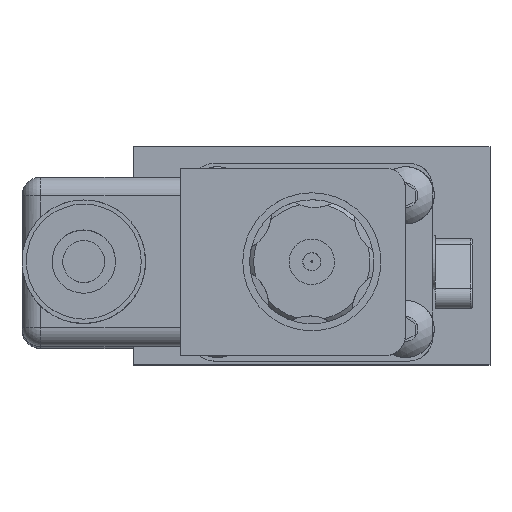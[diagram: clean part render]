
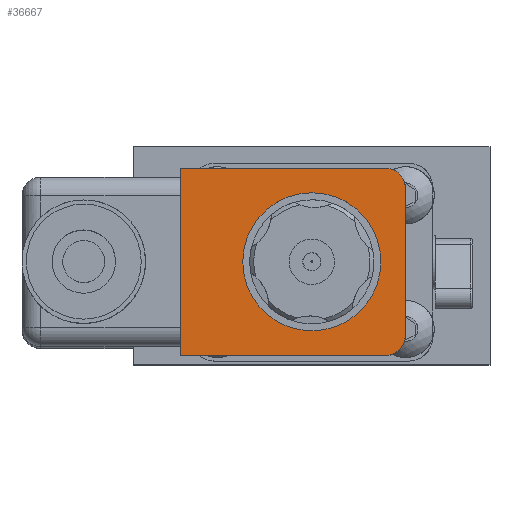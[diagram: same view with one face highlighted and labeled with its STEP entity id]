
A CAD part, top view. The second image highlights one B-rep face of the part: STEP entity #36667.
In plain terms, the highlighted planar face has unit normal (0, 0, 1).
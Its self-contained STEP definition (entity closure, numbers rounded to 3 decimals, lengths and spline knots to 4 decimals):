
#1431=FACE_BOUND('',#6511,.T.);
#2285=PLANE('',#40267);
#4211=FACE_OUTER_BOUND('',#6510,.T.);
#6510=EDGE_LOOP('',(#31179,#31180,#31181,#31182,#31183,#31184));
#6511=EDGE_LOOP('',(#31185));
#9194=LINE('',#67170,#11759);
#9201=LINE('',#67195,#11766);
#9202=LINE('',#67198,#11767);
#9203=LINE('',#67199,#11768);
#11759=VECTOR('',#49758,1.);
#11766=VECTOR('',#49777,1.);
#11767=VECTOR('',#49780,1.);
#11768=VECTOR('',#49781,1.);
#13526=CIRCLE('',#40268,0.3175);
#13527=CIRCLE('',#40269,0.3175);
#13528=CIRCLE('',#40270,1.1075);
#16722=VERTEX_POINT('',#67166);
#16724=VERTEX_POINT('',#67169);
#16734=VERTEX_POINT('',#67191);
#16735=VERTEX_POINT('',#67192);
#16736=VERTEX_POINT('',#67194);
#16737=VERTEX_POINT('',#67196);
#16738=VERTEX_POINT('',#67200);
#21584=EDGE_CURVE('',#16724,#16722,#9194,.T.);
#21595=EDGE_CURVE('',#16734,#16735,#13526,.T.);
#21596=EDGE_CURVE('',#16736,#16734,#9201,.T.);
#21597=EDGE_CURVE('',#16737,#16736,#13527,.T.);
#21598=EDGE_CURVE('',#16737,#16724,#9202,.T.);
#21599=EDGE_CURVE('',#16735,#16722,#9203,.T.);
#21600=EDGE_CURVE('',#16738,#16738,#13528,.T.);
#31179=ORIENTED_EDGE('',*,*,#21595,.F.);
#31180=ORIENTED_EDGE('',*,*,#21596,.F.);
#31181=ORIENTED_EDGE('',*,*,#21597,.F.);
#31182=ORIENTED_EDGE('',*,*,#21598,.T.);
#31183=ORIENTED_EDGE('',*,*,#21584,.T.);
#31184=ORIENTED_EDGE('',*,*,#21599,.F.);
#31185=ORIENTED_EDGE('',*,*,#21600,.T.);
#36667=ADVANCED_FACE('',(#4211,#1431),#2285,.T.);
#40267=AXIS2_PLACEMENT_3D('',#67190,#49773,#49774);
#40268=AXIS2_PLACEMENT_3D('',#67193,#49775,#49776);
#40269=AXIS2_PLACEMENT_3D('',#67197,#49778,#49779);
#40270=AXIS2_PLACEMENT_3D('',#67201,#49782,#49783);
#49758=DIRECTION('',(0.,-1.,0.));
#49773=DIRECTION('center_axis',(0.,0.,
1.));
#49774=DIRECTION('ref_axis',(-1.,0.,0.));
#49775=DIRECTION('center_axis',(0.,0.,
-1.));
#49776=DIRECTION('ref_axis',(0.707,-0.707,0.));
#49777=DIRECTION('',(0.,-1.,0.));
#49778=DIRECTION('center_axis',(0.,0.,
-1.));
#49779=DIRECTION('ref_axis',(0.707,0.707,0.));
#49780=DIRECTION('',(-1.,0.,0.));
#49781=DIRECTION('',(-1.,0.,0.));
#49782=DIRECTION('center_axis',(0.,0.,
-1.));
#49783=DIRECTION('ref_axis',(1.,0.,0.));
#67166=CARTESIAN_POINT('',(-2.1082,-1.5,10.0378));
#67169=CARTESIAN_POINT('',(-2.1082,1.5,10.0378));
#67170=CARTESIAN_POINT('',(-2.1082,1.5,10.0378));
#67190=CARTESIAN_POINT('Origin',(1.4986,1.5,10.0378));
#67191=CARTESIAN_POINT('',(1.4986,-1.1825,10.0378));
#67192=CARTESIAN_POINT('',(1.1811,-1.5,10.0378));
#67193=CARTESIAN_POINT('Origin',(1.1811,-1.1825,10.0378));
#67194=CARTESIAN_POINT('',(1.4986,1.1825,10.0378));
#67195=CARTESIAN_POINT('',(1.4986,1.5,10.0378));
#67196=CARTESIAN_POINT('',(1.1811,1.5,10.0378));
#67197=CARTESIAN_POINT('Origin',(1.1811,1.1825,10.0378));
#67198=CARTESIAN_POINT('',(1.4986,1.5,10.0378));
#67199=CARTESIAN_POINT('',(1.4986,-1.5,10.0378));
#67200=CARTESIAN_POINT('',(-1.1075,0.,10.0378));
#67201=CARTESIAN_POINT('Origin',(0.,0.,
10.0378));
